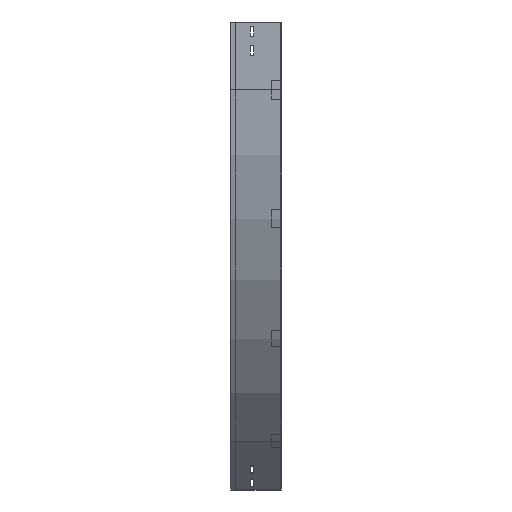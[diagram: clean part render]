
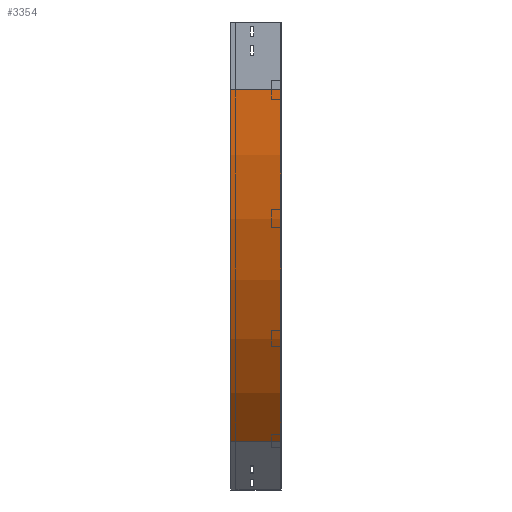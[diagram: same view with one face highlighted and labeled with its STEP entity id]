
A CAD part, left-side view. The second image highlights one B-rep face of the part: STEP entity #3354.
In plain terms, the highlighted cylindrical face has radius 1100 mm (diameter 2200 mm), a partial arc.
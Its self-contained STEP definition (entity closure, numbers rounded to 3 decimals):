
#183 = VERTEX_POINT ( 'NONE', #2533 ) ;
#251 = CIRCLE ( 'NONE', #2422, 1100. ) ;
#268 = VERTEX_POINT ( 'NONE', #2222 ) ;
#378 = CARTESIAN_POINT ( 'NONE',  ( 1100., 0., -150. ) ) ;
#408 = CARTESIAN_POINT ( 'NONE',  ( 322.183, 0., -927.817 ) ) ;
#422 = CARTESIAN_POINT ( 'NONE',  ( 1100., 0., -150. ) ) ;
#433 = VERTEX_POINT ( 'NONE', #2666 ) ;
#467 = EDGE_CURVE ( 'NONE', #268, #3396, #3046, .T. ) ;
#474 = DIRECTION ( 'NONE',  ( 0., -1., 0. ) ) ;
#800 = ORIENTED_EDGE ( 'NONE', *, *, #1840, .F. ) ;
#816 = AXIS2_PLACEMENT_3D ( 'NONE', #422, #474, #1647 ) ;
#834 = DIRECTION ( 'NONE',  ( 0., -1., 0. ) ) ;
#863 = DIRECTION ( 'NONE',  ( 0., -1., 0. ) ) ;
#947 = FACE_OUTER_BOUND ( 'NONE', #2195, .T. ) ;
#1209 = VECTOR ( 'NONE', #834, 1000. ) ;
#1225 = CARTESIAN_POINT ( 'NONE',  ( 322.183, 0., -927.817 ) ) ;
#1249 = CARTESIAN_POINT ( 'NONE',  ( 1100., 112.5, -150. ) ) ;
#1534 = DIRECTION ( 'NONE',  ( 0., -1., 0. ) ) ;
#1570 = DIRECTION ( 'NONE',  ( 0., 0., -1. ) ) ;
#1647 = DIRECTION ( 'NONE',  ( -1., 0., 0. ) ) ;
#1840 = EDGE_CURVE ( 'NONE', #183, #3396, #2478, .T. ) ;
#1887 = ORIENTED_EDGE ( 'NONE', *, *, #1987, .F. ) ;
#1987 = EDGE_CURVE ( 'NONE', #433, #183, #2903, .T. ) ;
#2030 = DIRECTION ( 'NONE',  ( -1., 0., 0. ) ) ;
#2038 = ORIENTED_EDGE ( 'NONE', *, *, #467, .T. ) ;
#2102 = AXIS2_PLACEMENT_3D ( 'NONE', #378, #1534, #1570 ) ;
#2195 = EDGE_LOOP ( 'NONE', ( #800, #1887, #2305, #2038 ) ) ;
#2222 = CARTESIAN_POINT ( 'NONE',  ( 322.183, 112.5, -927.817 ) ) ;
#2305 = ORIENTED_EDGE ( 'NONE', *, *, #2972, .T. ) ;
#2422 = AXIS2_PLACEMENT_3D ( 'NONE', #1249, #863, #2030 ) ;
#2433 = CYLINDRICAL_SURFACE ( 'NONE', #2102, 1100. ) ;
#2478 = CIRCLE ( 'NONE', #816, 1100. ) ;
#2509 = VECTOR ( 'NONE', #3323, 1000. ) ;
#2533 = CARTESIAN_POINT ( 'NONE',  ( 0., 0., -150. ) ) ;
#2666 = CARTESIAN_POINT ( 'NONE',  ( 0., 112.5, -150. ) ) ;
#2903 = LINE ( 'NONE', #2943, #1209 ) ;
#2943 = CARTESIAN_POINT ( 'NONE',  ( 0., 0., -150. ) ) ;
#2972 = EDGE_CURVE ( 'NONE', #433, #268, #251, .T. ) ;
#3046 = LINE ( 'NONE', #408, #2509 ) ;
#3323 = DIRECTION ( 'NONE',  ( 0., -1., 0. ) ) ;
#3354 = ADVANCED_FACE ( 'NONE', ( #947 ), #2433, .T. ) ;
#3396 = VERTEX_POINT ( 'NONE', #1225 ) ;
